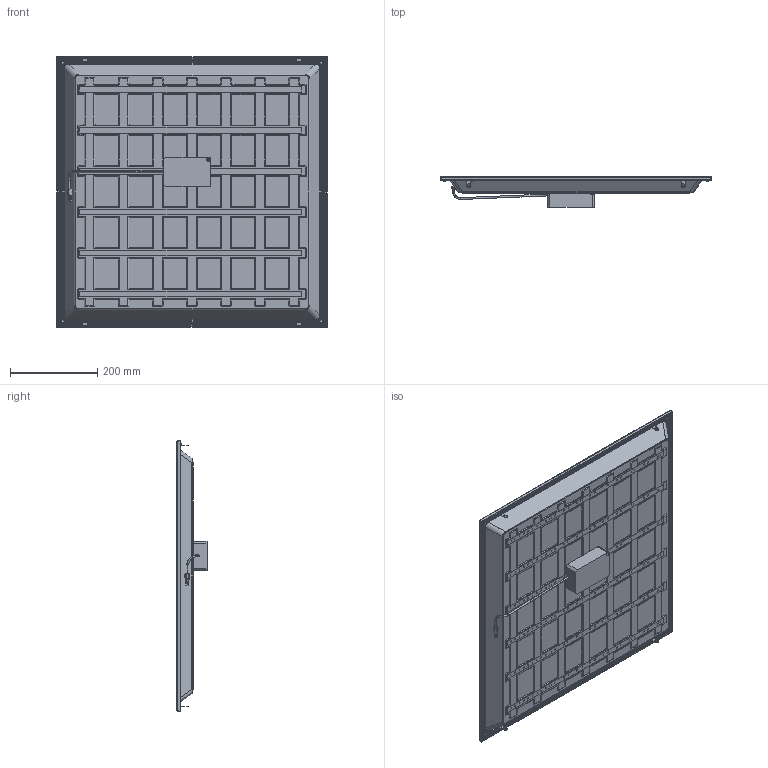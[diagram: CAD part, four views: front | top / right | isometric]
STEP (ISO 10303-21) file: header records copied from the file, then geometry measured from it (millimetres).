
FILE_DESCRIPTION(/* description */ (''),/* implementation_level */ '2;1');
FILE_NAME(/* name */ '929003433406_sh10_20240112.stp',/* time_stamp */ '2024-01-12T17:03:05+08:00',/* author */ (''),/* organization */ (''),/* preprocessor_version */ 'ST-DEVELOPER v19.4',/* originating_system */ 'SIEMENS PLM Software NX2212.8901',/* authorisation */ '');
FILE_SCHEMA (('AUTOMOTIVE_DESIGN { 1 0 10303 214 3 1 1 1 }'));
Products named in the file (1): 620620-Fluxtune_step_objects
Bounding box: 620 x 69.2 x 620 mm (x, y, z)
Volume: 1022881.2 mm3; surface area: 2622510.4 mm2
Topology: 48 solids, 48 shells, 4189 faces, 10686 edges, 6906 vertices
Faces by surface type: plane 2319, cylinder 1498, bspline 130, torus 94, cone 92, sphere 56
Entity records: 152987 total; most frequent: CARTESIAN_POINT 57761, ORIENTED_EDGE 21356, DIRECTION 17742, EDGE_CURVE 10678, VERTEX_POINT 6906, LINE 6256, VECTOR 6256, AXIS2_PLACEMENT_3D 5743
